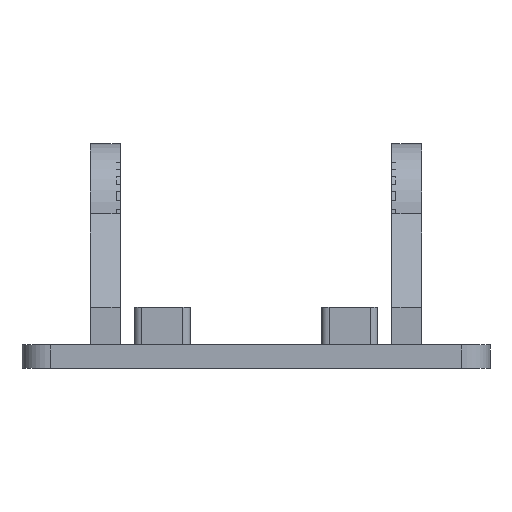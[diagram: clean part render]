
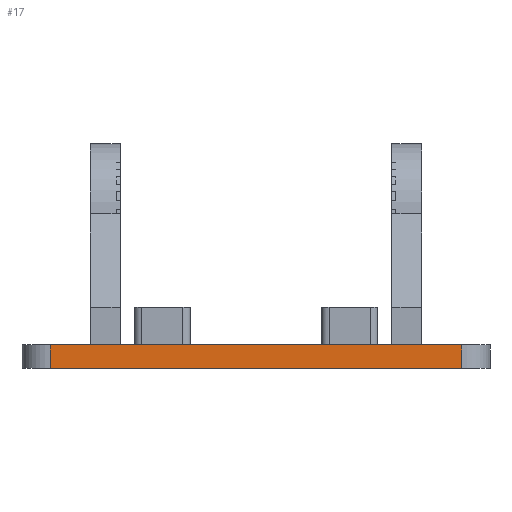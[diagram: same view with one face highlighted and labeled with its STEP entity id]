
A CAD part, left-side view. The second image highlights one B-rep face of the part: STEP entity #17.
In plain terms, the highlighted planar face has unit normal (-1, 0, 0).
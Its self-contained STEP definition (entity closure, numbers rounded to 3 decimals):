
#17 = ADVANCED_FACE('',(#18),#32,.F.);
#18 = FACE_BOUND('',#19,.F.);
#19 = EDGE_LOOP('',(#20,#55,#83,#111));
#20 = ORIENTED_EDGE('',*,*,#21,.F.);
#21 = EDGE_CURVE('',#22,#24,#26,.T.);
#22 = VERTEX_POINT('',#23);
#23 = CARTESIAN_POINT('',(-32.,-22.,-30.));
#24 = VERTEX_POINT('',#25);
#25 = CARTESIAN_POINT('',(-32.,22.,-30.));
#26 = SURFACE_CURVE('',#27,(#31,#43),.PCURVE_S1.);
#27 = LINE('',#28,#29);
#28 = CARTESIAN_POINT('',(-32.,-25.,-30.));
#29 = VECTOR('',#30,1.);
#30 = DIRECTION('',(0.,1.,0.));
#31 = PCURVE('',#32,#37);
#32 = PLANE('',#33);
#33 = AXIS2_PLACEMENT_3D('',#34,#35,#36);
#34 = CARTESIAN_POINT('',(-32.,-25.,-32.5));
#35 = DIRECTION('',(1.,0.,0.));
#36 = DIRECTION('',(0.,0.,1.));
#37 = DEFINITIONAL_REPRESENTATION('',(#38),#42);
#38 = LINE('',#39,#40);
#39 = CARTESIAN_POINT('',(2.5,0.));
#40 = VECTOR('',#41,1.);
#41 = DIRECTION('',(0.,-1.));
#42 = ( GEOMETRIC_REPRESENTATION_CONTEXT(2) 
PARAMETRIC_REPRESENTATION_CONTEXT() REPRESENTATION_CONTEXT('2D SPACE',''
  ) );
#43 = PCURVE('',#44,#49);
#44 = PLANE('',#45);
#45 = AXIS2_PLACEMENT_3D('',#46,#47,#48);
#46 = CARTESIAN_POINT('',(-32.,-25.,-30.));
#47 = DIRECTION('',(0.,0.,1.));
#48 = DIRECTION('',(1.,0.,0.));
#49 = DEFINITIONAL_REPRESENTATION('',(#50),#54);
#50 = LINE('',#51,#52);
#51 = CARTESIAN_POINT('',(0.,0.));
#52 = VECTOR('',#53,1.);
#53 = DIRECTION('',(0.,1.));
#54 = ( GEOMETRIC_REPRESENTATION_CONTEXT(2) 
PARAMETRIC_REPRESENTATION_CONTEXT() REPRESENTATION_CONTEXT('2D SPACE',''
  ) );
#55 = ORIENTED_EDGE('',*,*,#56,.F.);
#56 = EDGE_CURVE('',#57,#22,#59,.T.);
#57 = VERTEX_POINT('',#58);
#58 = CARTESIAN_POINT('',(-32.,-22.,-32.5));
#59 = SURFACE_CURVE('',#60,(#64,#71),.PCURVE_S1.);
#60 = LINE('',#61,#62);
#61 = CARTESIAN_POINT('',(-32.,-22.,-32.5));
#62 = VECTOR('',#63,1.);
#63 = DIRECTION('',(0.,0.,1.));
#64 = PCURVE('',#32,#65);
#65 = DEFINITIONAL_REPRESENTATION('',(#66),#70);
#66 = LINE('',#67,#68);
#67 = CARTESIAN_POINT('',(0.,-3.));
#68 = VECTOR('',#69,1.);
#69 = DIRECTION('',(1.,0.));
#70 = ( GEOMETRIC_REPRESENTATION_CONTEXT(2) 
PARAMETRIC_REPRESENTATION_CONTEXT() REPRESENTATION_CONTEXT('2D SPACE',''
  ) );
#71 = PCURVE('',#72,#77);
#72 = CYLINDRICAL_SURFACE('',#73,3.);
#73 = AXIS2_PLACEMENT_3D('',#74,#75,#76);
#74 = CARTESIAN_POINT('',(-29.,-22.,-32.5));
#75 = DIRECTION('',(0.,0.,1.));
#76 = DIRECTION('',(-1.,-0.,0.));
#77 = DEFINITIONAL_REPRESENTATION('',(#78),#82);
#78 = LINE('',#79,#80);
#79 = CARTESIAN_POINT('',(0.,0.));
#80 = VECTOR('',#81,1.);
#81 = DIRECTION('',(0.,1.));
#82 = ( GEOMETRIC_REPRESENTATION_CONTEXT(2) 
PARAMETRIC_REPRESENTATION_CONTEXT() REPRESENTATION_CONTEXT('2D SPACE',''
  ) );
#83 = ORIENTED_EDGE('',*,*,#84,.T.);
#84 = EDGE_CURVE('',#57,#85,#87,.T.);
#85 = VERTEX_POINT('',#86);
#86 = CARTESIAN_POINT('',(-32.,22.,-32.5));
#87 = SURFACE_CURVE('',#88,(#92,#99),.PCURVE_S1.);
#88 = LINE('',#89,#90);
#89 = CARTESIAN_POINT('',(-32.,-25.,-32.5));
#90 = VECTOR('',#91,1.);
#91 = DIRECTION('',(0.,1.,0.));
#92 = PCURVE('',#32,#93);
#93 = DEFINITIONAL_REPRESENTATION('',(#94),#98);
#94 = LINE('',#95,#96);
#95 = CARTESIAN_POINT('',(0.,0.));
#96 = VECTOR('',#97,1.);
#97 = DIRECTION('',(0.,-1.));
#98 = ( GEOMETRIC_REPRESENTATION_CONTEXT(2) 
PARAMETRIC_REPRESENTATION_CONTEXT() REPRESENTATION_CONTEXT('2D SPACE',''
  ) );
#99 = PCURVE('',#100,#105);
#100 = PLANE('',#101);
#101 = AXIS2_PLACEMENT_3D('',#102,#103,#104);
#102 = CARTESIAN_POINT('',(-32.,-25.,-32.5));
#103 = DIRECTION('',(0.,0.,1.));
#104 = DIRECTION('',(1.,0.,0.));
#105 = DEFINITIONAL_REPRESENTATION('',(#106),#110);
#106 = LINE('',#107,#108);
#107 = CARTESIAN_POINT('',(0.,0.));
#108 = VECTOR('',#109,1.);
#109 = DIRECTION('',(0.,1.));
#110 = ( GEOMETRIC_REPRESENTATION_CONTEXT(2) 
PARAMETRIC_REPRESENTATION_CONTEXT() REPRESENTATION_CONTEXT('2D SPACE',''
  ) );
#111 = ORIENTED_EDGE('',*,*,#112,.T.);
#112 = EDGE_CURVE('',#85,#24,#113,.T.);
#113 = SURFACE_CURVE('',#114,(#118,#125),.PCURVE_S1.);
#114 = LINE('',#115,#116);
#115 = CARTESIAN_POINT('',(-32.,22.,-32.5));
#116 = VECTOR('',#117,1.);
#117 = DIRECTION('',(0.,0.,1.));
#118 = PCURVE('',#32,#119);
#119 = DEFINITIONAL_REPRESENTATION('',(#120),#124);
#120 = LINE('',#121,#122);
#121 = CARTESIAN_POINT('',(0.,-47.));
#122 = VECTOR('',#123,1.);
#123 = DIRECTION('',(1.,0.));
#124 = ( GEOMETRIC_REPRESENTATION_CONTEXT(2) 
PARAMETRIC_REPRESENTATION_CONTEXT() REPRESENTATION_CONTEXT('2D SPACE',''
  ) );
#125 = PCURVE('',#126,#131);
#126 = CYLINDRICAL_SURFACE('',#127,3.);
#127 = AXIS2_PLACEMENT_3D('',#128,#129,#130);
#128 = CARTESIAN_POINT('',(-29.,22.,-32.5));
#129 = DIRECTION('',(0.,0.,1.));
#130 = DIRECTION('',(-1.,-0.,0.));
#131 = DEFINITIONAL_REPRESENTATION('',(#132),#136);
#132 = LINE('',#133,#134);
#133 = CARTESIAN_POINT('',(-0.,0.));
#134 = VECTOR('',#135,1.);
#135 = DIRECTION('',(-0.,1.));
#136 = ( GEOMETRIC_REPRESENTATION_CONTEXT(2) 
PARAMETRIC_REPRESENTATION_CONTEXT() REPRESENTATION_CONTEXT('2D SPACE',''
  ) );
